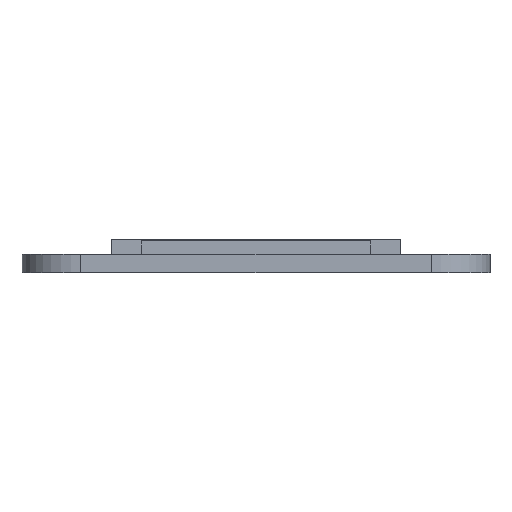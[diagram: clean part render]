
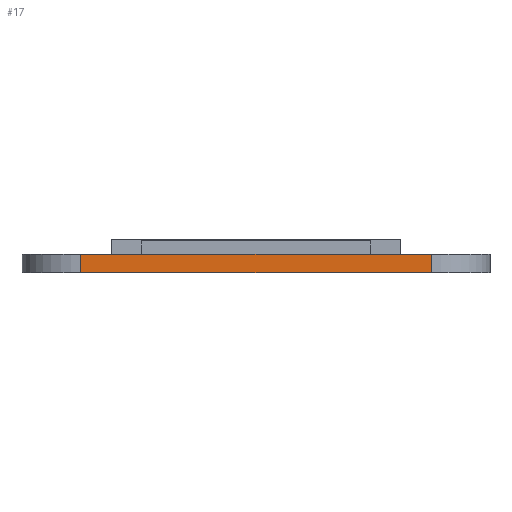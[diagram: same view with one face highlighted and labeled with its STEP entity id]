
A CAD part, front view. The second image highlights one B-rep face of the part: STEP entity #17.
In plain terms, the highlighted planar face has unit normal (0, -1, 0).
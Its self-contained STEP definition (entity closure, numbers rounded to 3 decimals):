
#17 = ADVANCED_FACE('',(#18),#32,.F.);
#18 = FACE_BOUND('',#19,.F.);
#19 = EDGE_LOOP('',(#20,#55,#83,#111));
#20 = ORIENTED_EDGE('',*,*,#21,.T.);
#21 = EDGE_CURVE('',#22,#24,#26,.T.);
#22 = VERTEX_POINT('',#23);
#23 = CARTESIAN_POINT('',(-23.025,-34.775,0.));
#24 = VERTEX_POINT('',#25);
#25 = CARTESIAN_POINT('',(-23.025,-34.775,2.4));
#26 = SURFACE_CURVE('',#27,(#31,#43),.PCURVE_S1.);
#27 = LINE('',#28,#29);
#28 = CARTESIAN_POINT('',(-23.025,-34.775,0.));
#29 = VECTOR('',#30,1.);
#30 = DIRECTION('',(0.,0.,1.));
#31 = PCURVE('',#32,#37);
#32 = PLANE('',#33);
#33 = AXIS2_PLACEMENT_3D('',#34,#35,#36);
#34 = CARTESIAN_POINT('',(-23.025,-34.775,0.));
#35 = DIRECTION('',(0.,1.,0.));
#36 = DIRECTION('',(1.,0.,0.));
#37 = DEFINITIONAL_REPRESENTATION('',(#38),#42);
#38 = LINE('',#39,#40);
#39 = CARTESIAN_POINT('',(0.,0.));
#40 = VECTOR('',#41,1.);
#41 = DIRECTION('',(0.,-1.));
#42 = ( GEOMETRIC_REPRESENTATION_CONTEXT(2) 
PARAMETRIC_REPRESENTATION_CONTEXT() REPRESENTATION_CONTEXT('2D SPACE',''
  ) );
#43 = PCURVE('',#44,#49);
#44 = CYLINDRICAL_SURFACE('',#45,7.75);
#45 = AXIS2_PLACEMENT_3D('',#46,#47,#48);
#46 = CARTESIAN_POINT('',(-23.025,-27.025,0.));
#47 = DIRECTION('',(-0.,-0.,-1.));
#48 = DIRECTION('',(1.,0.,0.));
#49 = DEFINITIONAL_REPRESENTATION('',(#50),#54);
#50 = LINE('',#51,#52);
#51 = CARTESIAN_POINT('',(-4.712,0.));
#52 = VECTOR('',#53,1.);
#53 = DIRECTION('',(-0.,-1.));
#54 = ( GEOMETRIC_REPRESENTATION_CONTEXT(2) 
PARAMETRIC_REPRESENTATION_CONTEXT() REPRESENTATION_CONTEXT('2D SPACE',''
  ) );
#55 = ORIENTED_EDGE('',*,*,#56,.T.);
#56 = EDGE_CURVE('',#24,#57,#59,.T.);
#57 = VERTEX_POINT('',#58);
#58 = CARTESIAN_POINT('',(23.025,-34.775,2.4));
#59 = SURFACE_CURVE('',#60,(#64,#71),.PCURVE_S1.);
#60 = LINE('',#61,#62);
#61 = CARTESIAN_POINT('',(-23.025,-34.775,2.4));
#62 = VECTOR('',#63,1.);
#63 = DIRECTION('',(1.,0.,0.));
#64 = PCURVE('',#32,#65);
#65 = DEFINITIONAL_REPRESENTATION('',(#66),#70);
#66 = LINE('',#67,#68);
#67 = CARTESIAN_POINT('',(0.,-2.4));
#68 = VECTOR('',#69,1.);
#69 = DIRECTION('',(1.,0.));
#70 = ( GEOMETRIC_REPRESENTATION_CONTEXT(2) 
PARAMETRIC_REPRESENTATION_CONTEXT() REPRESENTATION_CONTEXT('2D SPACE',''
  ) );
#71 = PCURVE('',#72,#77);
#72 = PLANE('',#73);
#73 = AXIS2_PLACEMENT_3D('',#74,#75,#76);
#74 = CARTESIAN_POINT('',(0.,0.,2.4));
#75 = DIRECTION('',(0.,0.,1.));
#76 = DIRECTION('',(1.,0.,-0.));
#77 = DEFINITIONAL_REPRESENTATION('',(#78),#82);
#78 = LINE('',#79,#80);
#79 = CARTESIAN_POINT('',(-23.025,-34.775));
#80 = VECTOR('',#81,1.);
#81 = DIRECTION('',(1.,0.));
#82 = ( GEOMETRIC_REPRESENTATION_CONTEXT(2) 
PARAMETRIC_REPRESENTATION_CONTEXT() REPRESENTATION_CONTEXT('2D SPACE',''
  ) );
#83 = ORIENTED_EDGE('',*,*,#84,.F.);
#84 = EDGE_CURVE('',#85,#57,#87,.T.);
#85 = VERTEX_POINT('',#86);
#86 = CARTESIAN_POINT('',(23.025,-34.775,0.));
#87 = SURFACE_CURVE('',#88,(#92,#99),.PCURVE_S1.);
#88 = LINE('',#89,#90);
#89 = CARTESIAN_POINT('',(23.025,-34.775,0.));
#90 = VECTOR('',#91,1.);
#91 = DIRECTION('',(0.,0.,1.));
#92 = PCURVE('',#32,#93);
#93 = DEFINITIONAL_REPRESENTATION('',(#94),#98);
#94 = LINE('',#95,#96);
#95 = CARTESIAN_POINT('',(46.05,0.));
#96 = VECTOR('',#97,1.);
#97 = DIRECTION('',(0.,-1.));
#98 = ( GEOMETRIC_REPRESENTATION_CONTEXT(2) 
PARAMETRIC_REPRESENTATION_CONTEXT() REPRESENTATION_CONTEXT('2D SPACE',''
  ) );
#99 = PCURVE('',#100,#105);
#100 = CYLINDRICAL_SURFACE('',#101,7.75);
#101 = AXIS2_PLACEMENT_3D('',#102,#103,#104);
#102 = CARTESIAN_POINT('',(23.025,-27.025,0.));
#103 = DIRECTION('',(-0.,-0.,-1.));
#104 = DIRECTION('',(1.,0.,0.));
#105 = DEFINITIONAL_REPRESENTATION('',(#106),#110);
#106 = LINE('',#107,#108);
#107 = CARTESIAN_POINT('',(-4.712,0.));
#108 = VECTOR('',#109,1.);
#109 = DIRECTION('',(-0.,-1.));
#110 = ( GEOMETRIC_REPRESENTATION_CONTEXT(2) 
PARAMETRIC_REPRESENTATION_CONTEXT() REPRESENTATION_CONTEXT('2D SPACE',''
  ) );
#111 = ORIENTED_EDGE('',*,*,#112,.F.);
#112 = EDGE_CURVE('',#22,#85,#113,.T.);
#113 = SURFACE_CURVE('',#114,(#118,#125),.PCURVE_S1.);
#114 = LINE('',#115,#116);
#115 = CARTESIAN_POINT('',(-23.025,-34.775,0.));
#116 = VECTOR('',#117,1.);
#117 = DIRECTION('',(1.,0.,0.));
#118 = PCURVE('',#32,#119);
#119 = DEFINITIONAL_REPRESENTATION('',(#120),#124);
#120 = LINE('',#121,#122);
#121 = CARTESIAN_POINT('',(0.,0.));
#122 = VECTOR('',#123,1.);
#123 = DIRECTION('',(1.,0.));
#124 = ( GEOMETRIC_REPRESENTATION_CONTEXT(2) 
PARAMETRIC_REPRESENTATION_CONTEXT() REPRESENTATION_CONTEXT('2D SPACE',''
  ) );
#125 = PCURVE('',#126,#131);
#126 = PLANE('',#127);
#127 = AXIS2_PLACEMENT_3D('',#128,#129,#130);
#128 = CARTESIAN_POINT('',(0.,0.,0.));
#129 = DIRECTION('',(0.,0.,1.));
#130 = DIRECTION('',(1.,0.,-0.));
#131 = DEFINITIONAL_REPRESENTATION('',(#132),#136);
#132 = LINE('',#133,#134);
#133 = CARTESIAN_POINT('',(-23.025,-34.775));
#134 = VECTOR('',#135,1.);
#135 = DIRECTION('',(1.,0.));
#136 = ( GEOMETRIC_REPRESENTATION_CONTEXT(2) 
PARAMETRIC_REPRESENTATION_CONTEXT() REPRESENTATION_CONTEXT('2D SPACE',''
  ) );
